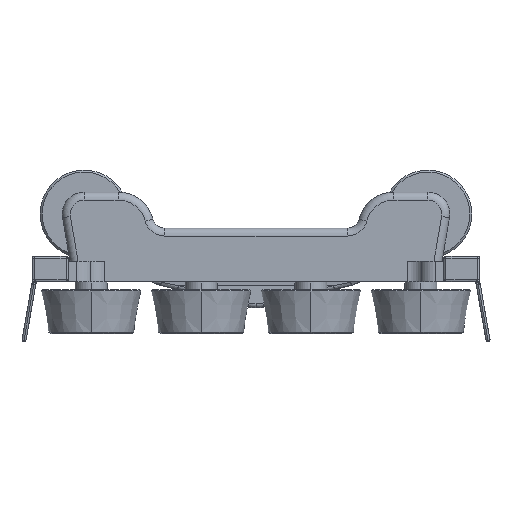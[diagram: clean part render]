
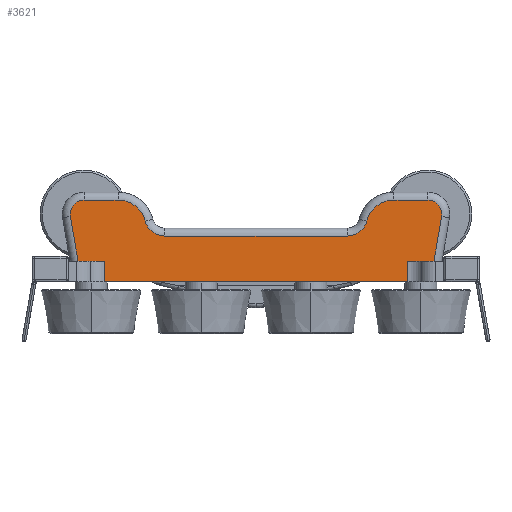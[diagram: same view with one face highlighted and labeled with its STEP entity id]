
A CAD part, front view. The second image highlights one B-rep face of the part: STEP entity #3621.
In plain terms, the highlighted planar face has unit normal (0, -1, 0).
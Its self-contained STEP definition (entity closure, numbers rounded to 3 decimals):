
#2 = AXIS2_PLACEMENT_3D ( 'NONE', #6008, #9971, #8912 ) ;
#50 = ORIENTED_EDGE ( 'NONE', *, *, #4513, .T. ) ;
#109 = ORIENTED_EDGE ( 'NONE', *, *, #10688, .T. ) ;
#138 = EDGE_CURVE ( 'NONE', #6821, #10736, #4970, .T. ) ;
#146 = CARTESIAN_POINT ( 'NONE',  ( -13.75, -24.1, -1.5 ) ) ;
#206 = VERTEX_POINT ( 'NONE', #6286 ) ;
#245 = DIRECTION ( 'NONE',  ( 0., -1., 0. ) ) ;
#278 = DIRECTION ( 'NONE',  ( 0., -1., 0. ) ) ;
#302 = CARTESIAN_POINT ( 'NONE',  ( 30., -24.1, 10. ) ) ;
#312 = VECTOR ( 'NONE', #12467, 1000. ) ;
#334 = CARTESIAN_POINT ( 'NONE',  ( 27.722, -24.1, 13.75 ) ) ;
#370 = CARTESIAN_POINT ( 'NONE',  ( 34.5, -24.1, 12. ) ) ;
#402 = CARTESIAN_POINT ( 'NONE',  ( 44.517, -24.1, 3.7 ) ) ;
#415 = CIRCLE ( 'NONE', #3247, 5. ) ;
#596 = VERTEX_POINT ( 'NONE', #6330 ) ;
#611 = DIRECTION ( 'NONE',  ( 0., 0., 1. ) ) ;
#622 = VECTOR ( 'NONE', #6114, 1000. ) ;
#834 = VERTEX_POINT ( 'NONE', #1239 ) ;
#1090 = DIRECTION ( 'NONE',  ( 0.17, 0., -0.985 ) ) ;
#1239 = CARTESIAN_POINT ( 'NONE',  ( 38., -24.1, 3.7 ) ) ;
#1688 = VERTEX_POINT ( 'NONE', #10167 ) ;
#1766 = CARTESIAN_POINT ( 'NONE',  ( -46.449, -24.1, 14.905 ) ) ;
#1791 = CARTESIAN_POINT ( 'NONE',  ( -38., -24.1, 3.7 ) ) ;
#1808 = AXIS2_PLACEMENT_3D ( 'NONE', #9884, #278, #5112 ) ;
#2108 = EDGE_CURVE ( 'NONE', #4803, #206, #415, .T. ) ;
#2136 = PLANE ( 'NONE',  #2 ) ;
#2181 = ORIENTED_EDGE ( 'NONE', *, *, #4197, .F. ) ;
#2199 = DIRECTION ( 'NONE',  ( -1., 0., 0. ) ) ;
#2200 = DIRECTION ( 'NONE',  ( 0., 0., 1. ) ) ;
#2298 = CARTESIAN_POINT ( 'NONE',  ( 46.449, -24.1, 14.905 ) ) ;
#2310 = EDGE_CURVE ( 'NONE', #5538, #6523, #3201, .T. ) ;
#2376 = CARTESIAN_POINT ( 'NONE',  ( 30., -24.1, -1.5 ) ) ;
#2482 = DIRECTION ( 'NONE',  ( -1., 0., 0. ) ) ;
#2537 = AXIS2_PLACEMENT_3D ( 'NONE', #5106, #10866, #3186 ) ;
#2554 = CARTESIAN_POINT ( 'NONE',  ( 30., -24.1, 3.7 ) ) ;
#2594 = ORIENTED_EDGE ( 'NONE', *, *, #5642, .T. ) ;
#2732 = DIRECTION ( 'NONE',  ( 0., 0., -1. ) ) ;
#2991 = EDGE_CURVE ( 'NONE', #9987, #834, #3634, .T. ) ;
#3113 = ORIENTED_EDGE ( 'NONE', *, *, #138, .T. ) ;
#3186 = DIRECTION ( 'NONE',  ( 0., 0., 1. ) ) ;
#3201 = LINE ( 'NONE', #2376, #622 ) ;
#3247 = AXIS2_PLACEMENT_3D ( 'NONE', #10905, #3345, #3668 ) ;
#3298 = EDGE_CURVE ( 'NONE', #5553, #834, #9347, .T. ) ;
#3345 = DIRECTION ( 'NONE',  ( 0., 1., 0. ) ) ;
#3455 = EDGE_LOOP ( 'NONE', ( #7950, #50, #7372, #4254, #6672, #7453, #11944, #10316, #109, #10709, #11559, #3113, #10937, #2594, #2181, #6495, #9038, #12030 ) ) ;
#3539 = CARTESIAN_POINT ( 'NONE',  ( 22.881, -24.1, 15. ) ) ;
#3603 = CARTESIAN_POINT ( 'NONE',  ( 43., -24.1, 15.5 ) ) ;
#3621 = ADVANCED_FACE ( 'NONE', ( #6951 ), #2136, .F. ) ;
#3634 = LINE ( 'NONE', #2554, #8683 ) ;
#3667 = EDGE_CURVE ( 'NONE', #596, #6531, #9291, .T. ) ;
#3668 = DIRECTION ( 'NONE',  ( 0., 0., 1. ) ) ;
#3724 = EDGE_CURVE ( 'NONE', #6531, #12175, #9300, .T. ) ;
#3798 = CIRCLE ( 'NONE', #10829, 3.5 ) ;
#3820 = CARTESIAN_POINT ( 'NONE',  ( 38., -24.1, -1.5 ) ) ;
#3988 = VECTOR ( 'NONE', #2732, 1000. ) ;
#4090 = DIRECTION ( 'NONE',  ( -1., 0., 0. ) ) ;
#4197 = EDGE_CURVE ( 'NONE', #6523, #7828, #4545, .T. ) ;
#4254 = ORIENTED_EDGE ( 'NONE', *, *, #7189, .T. ) ;
#4403 = CARTESIAN_POINT ( 'NONE',  ( -44.517, -24.1, 3.7 ) ) ;
#4513 = EDGE_CURVE ( 'NONE', #9987, #1688, #7122, .T. ) ;
#4545 = LINE ( 'NONE', #5548, #4888 ) ;
#4556 = DIRECTION ( 'NONE',  ( 0., 0., 1. ) ) ;
#4572 = CARTESIAN_POINT ( 'NONE',  ( 38., -24.1, 12. ) ) ;
#4803 = VERTEX_POINT ( 'NONE', #12347 ) ;
#4888 = VECTOR ( 'NONE', #12205, 1000. ) ;
#4958 = CARTESIAN_POINT ( 'NONE',  ( -43., -24.1, 19. ) ) ;
#4970 = LINE ( 'NONE', #5845, #5774 ) ;
#5092 = DIRECTION ( 'NONE',  ( -1., 0., 0. ) ) ;
#5106 = CARTESIAN_POINT ( 'NONE',  ( -43., -24.1, 15.5 ) ) ;
#5112 = DIRECTION ( 'NONE',  ( 0., 0., 1. ) ) ;
#5184 = CIRCLE ( 'NONE', #2537, 3.5 ) ;
#5205 = VECTOR ( 'NONE', #2199, 1000. ) ;
#5281 = VECTOR ( 'NONE', #5462, 1000. ) ;
#5462 = DIRECTION ( 'NONE',  ( 0., 0., 1. ) ) ;
#5538 = VERTEX_POINT ( 'NONE', #10001 ) ;
#5548 = CARTESIAN_POINT ( 'NONE',  ( 30., -24.1, -1.5 ) ) ;
#5553 = VERTEX_POINT ( 'NONE', #3820 ) ;
#5642 = EDGE_CURVE ( 'NONE', #9618, #7828, #7608, .T. ) ;
#5774 = VECTOR ( 'NONE', #1090, 1000. ) ;
#5785 = EDGE_CURVE ( 'NONE', #11431, #11108, #11805, .T. ) ;
#5845 = CARTESIAN_POINT ( 'NONE',  ( -44.576, -24.1, 4.04 ) ) ;
#5877 = CARTESIAN_POINT ( 'NONE',  ( 34.5, -24.1, 19. ) ) ;
#6008 = CARTESIAN_POINT ( 'NONE',  ( 30., -24.1, 12. ) ) ;
#6114 = DIRECTION ( 'NONE',  ( -1., 0., 0. ) ) ;
#6286 = CARTESIAN_POINT ( 'NONE',  ( -27.722, -24.1, 13.75 ) ) ;
#6330 = CARTESIAN_POINT ( 'NONE',  ( 34.5, -24.1, 19. ) ) ;
#6495 = ORIENTED_EDGE ( 'NONE', *, *, #2310, .F. ) ;
#6523 = VERTEX_POINT ( 'NONE', #146 ) ;
#6531 = VERTEX_POINT ( 'NONE', #334 ) ;
#6546 = EDGE_CURVE ( 'NONE', #5553, #5538, #9940, .T. ) ;
#6672 = ORIENTED_EDGE ( 'NONE', *, *, #3667, .T. ) ;
#6729 = EDGE_CURVE ( 'NONE', #9618, #10736, #10984, .T. ) ;
#6821 = VERTEX_POINT ( 'NONE', #1766 ) ;
#6857 = CARTESIAN_POINT ( 'NONE',  ( 43., -24.1, 19. ) ) ;
#6951 = FACE_OUTER_BOUND ( 'NONE', #3455, .T. ) ;
#7122 = LINE ( 'NONE', #2298, #10518 ) ;
#7169 = CARTESIAN_POINT ( 'NONE',  ( 30., -24.1, 3.7 ) ) ;
#7189 = EDGE_CURVE ( 'NONE', #12092, #596, #9845, .T. ) ;
#7333 = DIRECTION ( 'NONE',  ( 0., -1., 0. ) ) ;
#7372 = ORIENTED_EDGE ( 'NONE', *, *, #9561, .T. ) ;
#7453 = ORIENTED_EDGE ( 'NONE', *, *, #3724, .T. ) ;
#7489 = DIRECTION ( 'NONE',  ( -1., 0., 0. ) ) ;
#7503 = AXIS2_PLACEMENT_3D ( 'NONE', #3539, #10153, #4556 ) ;
#7532 = EDGE_CURVE ( 'NONE', #11108, #6821, #5184, .T. ) ;
#7608 = LINE ( 'NONE', #12432, #3988 ) ;
#7828 = VERTEX_POINT ( 'NONE', #8492 ) ;
#7950 = ORIENTED_EDGE ( 'NONE', *, *, #2991, .F. ) ;
#8116 = CARTESIAN_POINT ( 'NONE',  ( -34.5, -24.1, 19. ) ) ;
#8374 = EDGE_CURVE ( 'NONE', #12175, #4803, #8782, .T. ) ;
#8492 = CARTESIAN_POINT ( 'NONE',  ( -38., -24.1, -1.5 ) ) ;
#8683 = VECTOR ( 'NONE', #7489, 1000. ) ;
#8782 = LINE ( 'NONE', #302, #5205 ) ;
#8812 = VECTOR ( 'NONE', #4090, 1000. ) ;
#8912 = DIRECTION ( 'NONE',  ( 0., 0., 1. ) ) ;
#9038 = ORIENTED_EDGE ( 'NONE', *, *, #6546, .F. ) ;
#9291 = CIRCLE ( 'NONE', #9695, 7. ) ;
#9300 = CIRCLE ( 'NONE', #7503, 5. ) ;
#9347 = LINE ( 'NONE', #4572, #5281 ) ;
#9561 = EDGE_CURVE ( 'NONE', #1688, #12092, #3798, .T. ) ;
#9618 = VERTEX_POINT ( 'NONE', #1791 ) ;
#9695 = AXIS2_PLACEMENT_3D ( 'NONE', #370, #245, #2200 ) ;
#9751 = CARTESIAN_POINT ( 'NONE',  ( 30., -24.1, -1.5 ) ) ;
#9845 = LINE ( 'NONE', #5877, #312 ) ;
#9884 = CARTESIAN_POINT ( 'NONE',  ( -34.5, -24.1, 12. ) ) ;
#9940 = LINE ( 'NONE', #9751, #8812 ) ;
#9971 = DIRECTION ( 'NONE',  ( 0., 1., 0. ) ) ;
#9987 = VERTEX_POINT ( 'NONE', #402 ) ;
#9999 = DIRECTION ( 'NONE',  ( 0.17, 0., 0.985 ) ) ;
#10001 = CARTESIAN_POINT ( 'NONE',  ( 13.75, -24.1, -1.5 ) ) ;
#10134 = CARTESIAN_POINT ( 'NONE',  ( 22.881, -24.1, 10. ) ) ;
#10153 = DIRECTION ( 'NONE',  ( 0., 1., 0. ) ) ;
#10167 = CARTESIAN_POINT ( 'NONE',  ( 46.449, -24.1, 14.905 ) ) ;
#10170 = VECTOR ( 'NONE', #5092, 1000. ) ;
#10316 = ORIENTED_EDGE ( 'NONE', *, *, #2108, .T. ) ;
#10480 = CIRCLE ( 'NONE', #1808, 7. ) ;
#10518 = VECTOR ( 'NONE', #9999, 1000. ) ;
#10688 = EDGE_CURVE ( 'NONE', #206, #11431, #10480, .T. ) ;
#10709 = ORIENTED_EDGE ( 'NONE', *, *, #5785, .T. ) ;
#10736 = VERTEX_POINT ( 'NONE', #4403 ) ;
#10829 = AXIS2_PLACEMENT_3D ( 'NONE', #3603, #7333, #611 ) ;
#10866 = DIRECTION ( 'NONE',  ( 0., -1., 0. ) ) ;
#10905 = CARTESIAN_POINT ( 'NONE',  ( -22.881, -24.1, 15. ) ) ;
#10937 = ORIENTED_EDGE ( 'NONE', *, *, #6729, .F. ) ;
#10984 = LINE ( 'NONE', #7169, #11802 ) ;
#11108 = VERTEX_POINT ( 'NONE', #11214 ) ;
#11214 = CARTESIAN_POINT ( 'NONE',  ( -43., -24.1, 19. ) ) ;
#11431 = VERTEX_POINT ( 'NONE', #8116 ) ;
#11559 = ORIENTED_EDGE ( 'NONE', *, *, #7532, .T. ) ;
#11802 = VECTOR ( 'NONE', #2482, 1000. ) ;
#11805 = LINE ( 'NONE', #4958, #10170 ) ;
#11944 = ORIENTED_EDGE ( 'NONE', *, *, #8374, .T. ) ;
#12030 = ORIENTED_EDGE ( 'NONE', *, *, #3298, .T. ) ;
#12092 = VERTEX_POINT ( 'NONE', #6857 ) ;
#12175 = VERTEX_POINT ( 'NONE', #10134 ) ;
#12205 = DIRECTION ( 'NONE',  ( -1., 0., 0. ) ) ;
#12347 = CARTESIAN_POINT ( 'NONE',  ( -22.881, -24.1, 10. ) ) ;
#12432 = CARTESIAN_POINT ( 'NONE',  ( -38., -24.1, -1.5 ) ) ;
#12467 = DIRECTION ( 'NONE',  ( -1., 0., 0. ) ) ;
